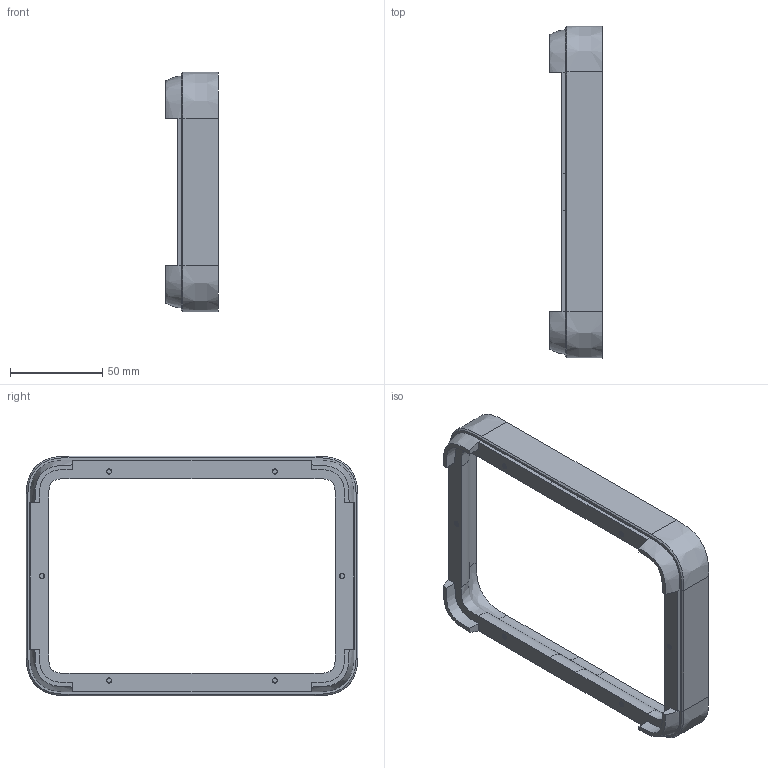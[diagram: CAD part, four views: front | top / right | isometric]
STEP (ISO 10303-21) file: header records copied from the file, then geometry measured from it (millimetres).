
FILE_DESCRIPTION(/* description */ (''),/* implementation_level */ '2;1');
FILE_NAME(/* name */ 'EXTERNAL DOOR BRACKET.step',/* time_stamp */ '2024-02-28T16:39:07Z',/* author */ (''),/* organization */ (''),/* preprocessor_version */ 'ST-DEVELOPER v20',/* originating_system */ 'Autodesk Translation Framework v12.20.1.177',/* authorisation */ '');
FILE_SCHEMA (('AUTOMOTIVE_DESIGN { 1 0 10303 214 3 1 1 }'));
Length unit declared in the file: millimetre
Products named in the file (1): EXTERNAL DOOR BRACKET
Bounding box: 28.6 x 180 x 130 mm (x, y, z)
Volume: 84467.4 mm3; surface area: 36153.7 mm2
Topology: 1 solids, 1 shells, 311 faces, 810 edges, 508 vertices
Faces by surface type: cylinder 142, bspline 140, plane 29
Full cylindrical faces by diameter (mm): 2.529 x46, 3.086 x32
Entity records: 22200 total; most frequent: CARTESIAN_POINT 16130, ORIENTED_EDGE 1620, EDGE_CURVE 810, DIRECTION 616, B_SPLINE_CURVE_WITH_KNOTS 564, VERTEX_POINT 508, EDGE_LOOP 320, FACE_OUTER_BOUND 311
